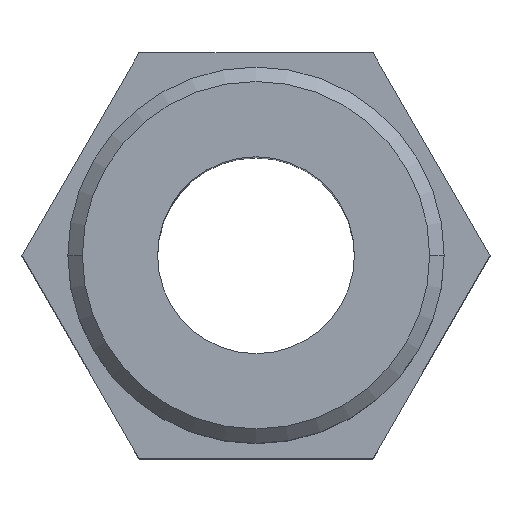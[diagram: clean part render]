
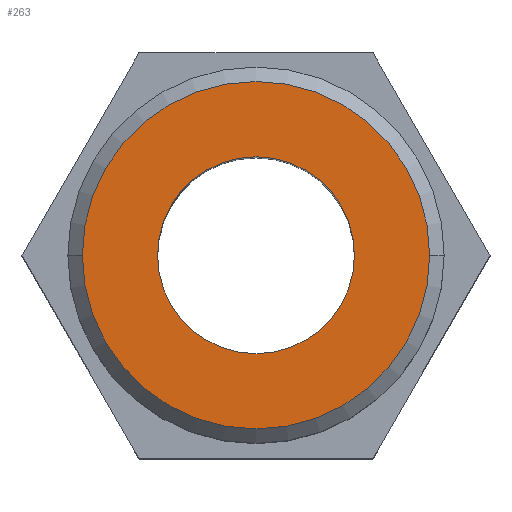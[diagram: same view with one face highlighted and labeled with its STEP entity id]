
A CAD part, top view. The second image highlights one B-rep face of the part: STEP entity #263.
In plain terms, the highlighted planar face has unit normal (0, 0, 1).
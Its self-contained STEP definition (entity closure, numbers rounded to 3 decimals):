
#5 = EDGE_CURVE ( 'NONE', #28, #400, #464, .T. ) ;
#23 = ORIENTED_EDGE ( 'NONE', *, *, #494, .T. ) ;
#28 = VERTEX_POINT ( 'NONE', #338 ) ;
#36 = VERTEX_POINT ( 'NONE', #423 ) ;
#49 = DIRECTION ( 'NONE',  ( 1., 0., 0. ) ) ;
#53 = ORIENTED_EDGE ( 'NONE', *, *, #419, .F. ) ;
#61 = EDGE_LOOP ( 'NONE', ( #23, #124 ) ) ;
#83 = CARTESIAN_POINT ( 'NONE',  ( 0., 0., 23. ) ) ;
#99 = DIRECTION ( 'NONE',  ( 0., 0., 1. ) ) ;
#114 = CARTESIAN_POINT ( 'NONE',  ( 0., 0., 23. ) ) ;
#115 = CARTESIAN_POINT ( 'NONE',  ( 0., 0., 23. ) ) ;
#124 = ORIENTED_EDGE ( 'NONE', *, *, #157, .T. ) ;
#146 = FACE_BOUND ( 'NONE', #185, .T. ) ;
#156 = DIRECTION ( 'NONE',  ( 0., 0., 1. ) ) ;
#157 = EDGE_CURVE ( 'NONE', #36, #371, #500, .T. ) ;
#175 = CARTESIAN_POINT ( 'NONE',  ( 0., 0., 23. ) ) ;
#179 = FACE_OUTER_BOUND ( 'NONE', #61, .T. ) ;
#185 = EDGE_LOOP ( 'NONE', ( #53, #453 ) ) ;
#217 = AXIS2_PLACEMENT_3D ( 'NONE', #83, #483, #242 ) ;
#231 = AXIS2_PLACEMENT_3D ( 'NONE', #175, #445, #317 ) ;
#242 = DIRECTION ( 'NONE',  ( 1., 0., 0. ) ) ;
#244 = CARTESIAN_POINT ( 'NONE',  ( -3.4, 0., 23. ) ) ;
#263 = ADVANCED_FACE ( 'NONE', ( #179, #146 ), #301, .T. ) ;
#272 = DIRECTION ( 'NONE',  ( 0., 0., 1. ) ) ;
#273 = AXIS2_PLACEMENT_3D ( 'NONE', #114, #156, #49 ) ;
#301 = PLANE ( 'NONE',  #384 ) ;
#317 = DIRECTION ( 'NONE',  ( 1., 0., 0. ) ) ;
#338 = CARTESIAN_POINT ( 'NONE',  ( 3.4, 0., 23. ) ) ;
#350 = DIRECTION ( 'NONE',  ( 1., 0., 0. ) ) ;
#365 = CIRCLE ( 'NONE', #273, 6. ) ;
#371 = VERTEX_POINT ( 'NONE', #486 ) ;
#384 = AXIS2_PLACEMENT_3D ( 'NONE', #465, #99, #428 ) ;
#400 = VERTEX_POINT ( 'NONE', #244 ) ;
#419 = EDGE_CURVE ( 'NONE', #400, #28, #458, .T. ) ;
#421 = AXIS2_PLACEMENT_3D ( 'NONE', #115, #272, #350 ) ;
#423 = CARTESIAN_POINT ( 'NONE',  ( 6., 0., 23. ) ) ;
#428 = DIRECTION ( 'NONE',  ( 1., 0., 0. ) ) ;
#445 = DIRECTION ( 'NONE',  ( 0., 0., 1. ) ) ;
#453 = ORIENTED_EDGE ( 'NONE', *, *, #5, .F. ) ;
#458 = CIRCLE ( 'NONE', #231, 3.4 ) ;
#464 = CIRCLE ( 'NONE', #217, 3.4 ) ;
#465 = CARTESIAN_POINT ( 'NONE',  ( 0., 0., 23. ) ) ;
#483 = DIRECTION ( 'NONE',  ( 0., 0., 1. ) ) ;
#486 = CARTESIAN_POINT ( 'NONE',  ( -6., 0., 23. ) ) ;
#494 = EDGE_CURVE ( 'NONE', #371, #36, #365, .T. ) ;
#500 = CIRCLE ( 'NONE', #421, 6. ) ;
